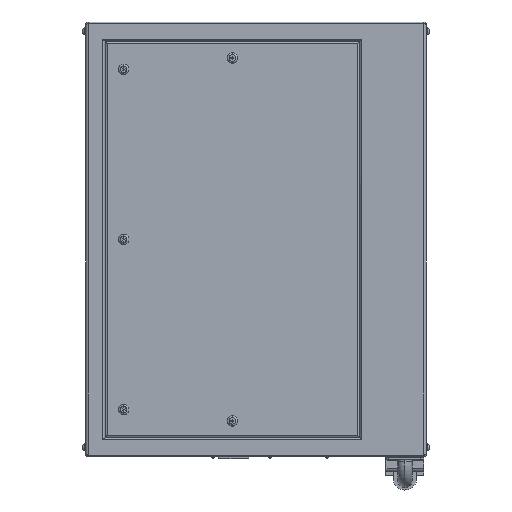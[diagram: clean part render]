
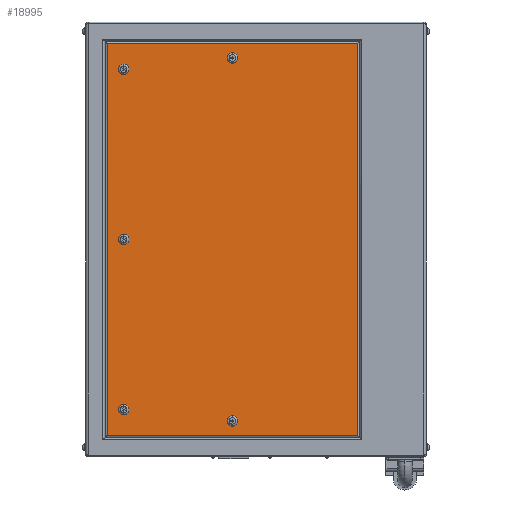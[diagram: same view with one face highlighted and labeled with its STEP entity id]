
A CAD part, left-side view. The second image highlights one B-rep face of the part: STEP entity #18995.
In plain terms, the highlighted planar face has unit normal (-1, 0, 0).
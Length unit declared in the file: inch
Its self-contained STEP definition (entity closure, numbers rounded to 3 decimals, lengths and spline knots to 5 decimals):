
#52 = DIRECTION ( 'NONE',  ( 0., 0., -1. ) ) ;
#172 = CARTESIAN_POINT ( 'NONE',  ( -11., 14., -17.45 ) ) ;
#451 = CARTESIAN_POINT ( 'NONE',  ( -11., 15.74, -20.74 ) ) ;
#551 = DIRECTION ( 'NONE',  ( 0., 0., -1. ) ) ;
#703 = ORIENTED_EDGE ( 'NONE', *, *, #13508, .T. ) ;
#771 = EDGE_CURVE ( 'NONE', #1474, #15762, #3654, .T. ) ;
#806 = DIRECTION ( 'NONE',  ( 1., 0., 0. ) ) ;
#944 = DIRECTION ( 'NONE',  ( 0., 1., 0. ) ) ;
#1027 = CARTESIAN_POINT ( 'NONE',  ( -11., 2.5, -19.19 ) ) ;
#1190 = CARTESIAN_POINT ( 'NONE',  ( -11., 14., -18. ) ) ;
#1314 = DIRECTION ( 'NONE',  ( 0., 0., -1. ) ) ;
#1424 = CARTESIAN_POINT ( 'NONE',  ( -11., 14., 18. ) ) ;
#1474 = VERTEX_POINT ( 'NONE', #7973 ) ;
#1534 = VERTEX_POINT ( 'NONE', #8820 ) ;
#2399 = CARTESIAN_POINT ( 'NONE',  ( -11., 14., 18. ) ) ;
#2485 = CIRCLE ( 'NONE', #4719, 0.55 ) ;
#2524 = CARTESIAN_POINT ( 'NONE',  ( -11., 14., -0.55 ) ) ;
#2615 = DIRECTION ( 'NONE',  ( 0., 0., -1. ) ) ;
#2619 = CARTESIAN_POINT ( 'NONE',  ( -11., 14., -18. ) ) ;
#2747 = CIRCLE ( 'NONE', #12622, 0.55 ) ;
#2803 = ORIENTED_EDGE ( 'NONE', *, *, #11313, .T. ) ;
#2937 = EDGE_CURVE ( 'NONE', #14051, #20658, #19591, .T. ) ;
#3352 = CARTESIAN_POINT ( 'NONE',  ( -11., -10.74, -20.74 ) ) ;
#3654 = CIRCLE ( 'NONE', #10641, 0.55 ) ;
#3922 = CARTESIAN_POINT ( 'NONE',  ( -11., 18., 20.74 ) ) ;
#4410 = ORIENTED_EDGE ( 'NONE', *, *, #18254, .T. ) ;
#4632 = ORIENTED_EDGE ( 'NONE', *, *, #19986, .T. ) ;
#4719 = AXIS2_PLACEMENT_3D ( 'NONE', #1190, #11724, #11821 ) ;
#4827 = EDGE_LOOP ( 'NONE', ( #4632, #10586 ) ) ;
#4922 = CARTESIAN_POINT ( 'NONE',  ( -11., 14., 0. ) ) ;
#5743 = CARTESIAN_POINT ( 'NONE',  ( -11., 18., -23. ) ) ;
#5769 = EDGE_CURVE ( 'NONE', #15762, #1474, #7755, .T. ) ;
#5874 = PLANE ( 'NONE',  #20442 ) ;
#5956 = CARTESIAN_POINT ( 'NONE',  ( -11., 14., -18.55 ) ) ;
#5967 = VERTEX_POINT ( 'NONE', #5956 ) ;
#6402 = EDGE_CURVE ( 'NONE', #5967, #16920, #2485, .T. ) ;
#6650 = DIRECTION ( 'NONE',  ( 1., 0., 0. ) ) ;
#6743 = DIRECTION ( 'NONE',  ( 1., 0., 0. ) ) ;
#6747 = VERTEX_POINT ( 'NONE', #451 ) ;
#6830 = EDGE_CURVE ( 'NONE', #1534, #10909, #14135, .T. ) ;
#7091 = ORIENTED_EDGE ( 'NONE', *, *, #6402, .T. ) ;
#7255 = AXIS2_PLACEMENT_3D ( 'NONE', #15630, #6743, #13664 ) ;
#7659 = ORIENTED_EDGE ( 'NONE', *, *, #2937, .T. ) ;
#7755 = CIRCLE ( 'NONE', #12475, 0.55 ) ;
#7931 = FACE_BOUND ( 'NONE', #18623, .T. ) ;
#7973 = CARTESIAN_POINT ( 'NONE',  ( -11., 2.5, -18.64 ) ) ;
#8029 = DIRECTION ( 'NONE',  ( 0., 0., 1. ) ) ;
#8154 = CARTESIAN_POINT ( 'NONE',  ( -11., 14., 0. ) ) ;
#8438 = ORIENTED_EDGE ( 'NONE', *, *, #17519, .T. ) ;
#8515 = VERTEX_POINT ( 'NONE', #14376 ) ;
#8765 = CIRCLE ( 'NONE', #10232, 0.55 ) ;
#8820 = CARTESIAN_POINT ( 'NONE',  ( -11., 2.5, 19.74 ) ) ;
#8873 = EDGE_CURVE ( 'NONE', #16450, #14051, #16301, .T. ) ;
#9194 = ORIENTED_EDGE ( 'NONE', *, *, #19330, .T. ) ;
#9505 = DIRECTION ( 'NONE',  ( 0., 0., 1. ) ) ;
#9540 = FACE_OUTER_BOUND ( 'NONE', #12618, .T. ) ;
#9632 = DIRECTION ( 'NONE',  ( 1., 0., 0. ) ) ;
#10028 = VECTOR ( 'NONE', #52, 39.37008 ) ;
#10232 = AXIS2_PLACEMENT_3D ( 'NONE', #4922, #15069, #2615 ) ;
#10280 = DIRECTION ( 'NONE',  ( 0., -1., 0. ) ) ;
#10586 = ORIENTED_EDGE ( 'NONE', *, *, #6830, .T. ) ;
#10641 = AXIS2_PLACEMENT_3D ( 'NONE', #1027, #6650, #8029 ) ;
#10715 = CARTESIAN_POINT ( 'NONE',  ( -11., 15.74, -23. ) ) ;
#10869 = CIRCLE ( 'NONE', #22215, 0.55 ) ;
#10909 = VERTEX_POINT ( 'NONE', #21175 ) ;
#11220 = DIRECTION ( 'NONE',  ( 1., 0., 0. ) ) ;
#11221 = ORIENTED_EDGE ( 'NONE', *, *, #771, .T. ) ;
#11313 = EDGE_CURVE ( 'NONE', #20658, #6747, #19403, .T. ) ;
#11369 = DIRECTION ( 'NONE',  ( 1., 0., 0. ) ) ;
#11724 = DIRECTION ( 'NONE',  ( 1., 0., 0. ) ) ;
#11821 = DIRECTION ( 'NONE',  ( 0., 0., -1. ) ) ;
#12235 = EDGE_CURVE ( 'NONE', #17950, #15231, #17680, .T. ) ;
#12241 = CARTESIAN_POINT ( 'NONE',  ( -11., 2.5, -19.74 ) ) ;
#12284 = CARTESIAN_POINT ( 'NONE',  ( -11., 14., 18.55 ) ) ;
#12475 = AXIS2_PLACEMENT_3D ( 'NONE', #13814, #19017, #17386 ) ;
#12618 = EDGE_LOOP ( 'NONE', ( #8438, #18320, #7659, #2803 ) ) ;
#12622 = AXIS2_PLACEMENT_3D ( 'NONE', #16887, #13437, #16996 ) ;
#13334 = DIRECTION ( 'NONE',  ( 0., 0., -1. ) ) ;
#13336 = ORIENTED_EDGE ( 'NONE', *, *, #22008, .T. ) ;
#13437 = DIRECTION ( 'NONE',  ( 1., 0., 0. ) ) ;
#13508 = EDGE_CURVE ( 'NONE', #8515, #21908, #22656, .T. ) ;
#13632 = CARTESIAN_POINT ( 'NONE',  ( -11., 18., -20.74 ) ) ;
#13664 = DIRECTION ( 'NONE',  ( 0., 0., -1. ) ) ;
#13806 = VECTOR ( 'NONE', #10280, 39.37008 ) ;
#13814 = CARTESIAN_POINT ( 'NONE',  ( -11., 2.5, -19.19 ) ) ;
#14051 = VERTEX_POINT ( 'NONE', #15568 ) ;
#14135 = CIRCLE ( 'NONE', #7255, 0.55 ) ;
#14333 = CARTESIAN_POINT ( 'NONE',  ( -11., 15.74, 20.74 ) ) ;
#14376 = CARTESIAN_POINT ( 'NONE',  ( -11., 14., 0.55 ) ) ;
#14706 = ORIENTED_EDGE ( 'NONE', *, *, #5769, .T. ) ;
#14859 = FACE_BOUND ( 'NONE', #19541, .T. ) ;
#15069 = DIRECTION ( 'NONE',  ( 1., 0., 0. ) ) ;
#15177 = ORIENTED_EDGE ( 'NONE', *, *, #12235, .T. ) ;
#15231 = VERTEX_POINT ( 'NONE', #22349 ) ;
#15489 = LINE ( 'NONE', #13632, #13806 ) ;
#15568 = CARTESIAN_POINT ( 'NONE',  ( -11., -10.74, 20.74 ) ) ;
#15630 = CARTESIAN_POINT ( 'NONE',  ( -11., 2.5, 19.19 ) ) ;
#15762 = VERTEX_POINT ( 'NONE', #12241 ) ;
#16301 = LINE ( 'NONE', #16423, #21512 ) ;
#16423 = CARTESIAN_POINT ( 'NONE',  ( -11., -10.74, -23. ) ) ;
#16450 = VERTEX_POINT ( 'NONE', #3352 ) ;
#16459 = FACE_BOUND ( 'NONE', #20707, .T. ) ;
#16887 = CARTESIAN_POINT ( 'NONE',  ( -11., 2.5, 19.19 ) ) ;
#16920 = VERTEX_POINT ( 'NONE', #172 ) ;
#16996 = DIRECTION ( 'NONE',  ( 0., 0., -1. ) ) ;
#17386 = DIRECTION ( 'NONE',  ( 0., 0., 1. ) ) ;
#17519 = EDGE_CURVE ( 'NONE', #6747, #16450, #15489, .T. ) ;
#17680 = CIRCLE ( 'NONE', #18437, 0.55 ) ;
#17848 = FACE_BOUND ( 'NONE', #20005, .T. ) ;
#17950 = VERTEX_POINT ( 'NONE', #12284 ) ;
#18182 = CIRCLE ( 'NONE', #21135, 0.55 ) ;
#18254 = EDGE_CURVE ( 'NONE', #16920, #5967, #10869, .T. ) ;
#18303 = DIRECTION ( 'NONE',  ( 0., 0., -1. ) ) ;
#18320 = ORIENTED_EDGE ( 'NONE', *, *, #8873, .T. ) ;
#18324 = DIRECTION ( 'NONE',  ( 0., 0., -1. ) ) ;
#18437 = AXIS2_PLACEMENT_3D ( 'NONE', #1424, #18818, #1314 ) ;
#18623 = EDGE_LOOP ( 'NONE', ( #9194, #703 ) ) ;
#18818 = DIRECTION ( 'NONE',  ( 1., 0., 0. ) ) ;
#18995 = ADVANCED_FACE ( 'NONE', ( #17848, #19928, #16459, #7931, #14859, #9540 ), #5874, .F. ) ;
#19017 = DIRECTION ( 'NONE',  ( 1., 0., 0. ) ) ;
#19330 = EDGE_CURVE ( 'NONE', #21908, #8515, #8765, .T. ) ;
#19403 = LINE ( 'NONE', #10715, #10028 ) ;
#19541 = EDGE_LOOP ( 'NONE', ( #13336, #15177 ) ) ;
#19591 = LINE ( 'NONE', #3922, #19976 ) ;
#19928 = FACE_BOUND ( 'NONE', #4827, .T. ) ;
#19976 = VECTOR ( 'NONE', #944, 39.37008 ) ;
#19986 = EDGE_CURVE ( 'NONE', #10909, #1534, #2747, .T. ) ;
#20005 = EDGE_LOOP ( 'NONE', ( #14706, #11221 ) ) ;
#20115 = AXIS2_PLACEMENT_3D ( 'NONE', #8154, #11220, #18303 ) ;
#20442 = AXIS2_PLACEMENT_3D ( 'NONE', #5743, #806, #551 ) ;
#20658 = VERTEX_POINT ( 'NONE', #14333 ) ;
#20707 = EDGE_LOOP ( 'NONE', ( #7091, #4410 ) ) ;
#21135 = AXIS2_PLACEMENT_3D ( 'NONE', #2399, #11369, #18324 ) ;
#21175 = CARTESIAN_POINT ( 'NONE',  ( -11., 2.5, 18.64 ) ) ;
#21512 = VECTOR ( 'NONE', #9505, 39.37008 ) ;
#21908 = VERTEX_POINT ( 'NONE', #2524 ) ;
#22008 = EDGE_CURVE ( 'NONE', #15231, #17950, #18182, .T. ) ;
#22215 = AXIS2_PLACEMENT_3D ( 'NONE', #2619, #9632, #13334 ) ;
#22349 = CARTESIAN_POINT ( 'NONE',  ( -11., 14., 17.45 ) ) ;
#22656 = CIRCLE ( 'NONE', #20115, 0.55 ) ;
